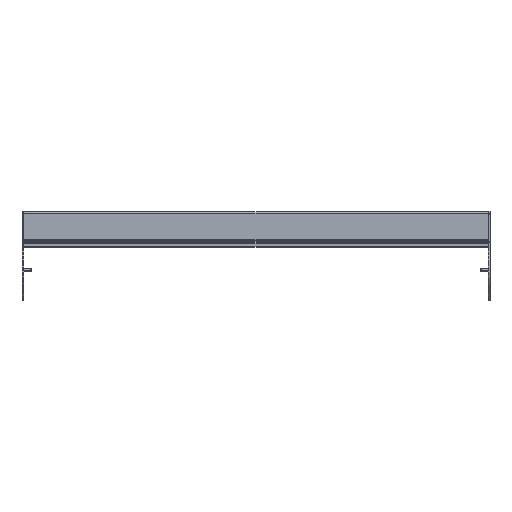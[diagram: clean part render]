
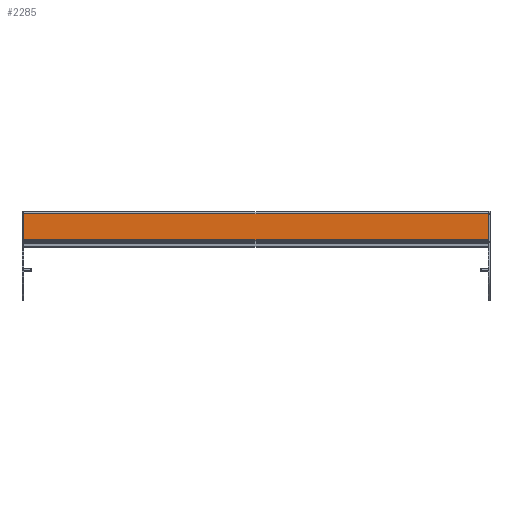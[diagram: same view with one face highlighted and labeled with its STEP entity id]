
A CAD part, top view. The second image highlights one B-rep face of the part: STEP entity #2285.
In plain terms, the highlighted planar face has unit normal (0, 0, 1) as drawn and (1, 0, 0) by its records, which use the part's own axes.
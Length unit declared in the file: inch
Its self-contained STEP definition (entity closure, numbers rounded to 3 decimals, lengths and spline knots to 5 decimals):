
#197=DIRECTION('',(0.,1.,0.));
#198=VECTOR('',#197,1.81445);
#199=CARTESIAN_POINT('',(0.683,-0.84545,-16.118));
#200=LINE('',#199,#198);
#303=DIRECTION('',(0.,1.,0.));
#304=VECTOR('',#303,1.81445);
#305=CARTESIAN_POINT('',(0.683,-0.84545,16.118));
#306=LINE('',#305,#304);
#646=DIRECTION('',(0.,0.,1.));
#647=VECTOR('',#646,32.236);
#648=CARTESIAN_POINT('',(0.683,0.969,-16.118));
#649=LINE('',#648,#647);
#659=DIRECTION('',(0.,0.,-1.));
#660=VECTOR('',#659,32.236);
#661=CARTESIAN_POINT('',(0.683,-0.84545,16.118));
#662=LINE('',#661,#660);
#1270=CARTESIAN_POINT('',(0.683,-0.84545,-16.118));
#1271=CARTESIAN_POINT('',(0.683,0.969,-16.118));
#1272=VERTEX_POINT('',#1270);
#1273=VERTEX_POINT('',#1271);
#1274=CARTESIAN_POINT('',(0.683,-0.84545,16.118));
#1275=CARTESIAN_POINT('',(0.683,0.969,16.118));
#1276=VERTEX_POINT('',#1274);
#1277=VERTEX_POINT('',#1275);
#2273=CARTESIAN_POINT('',(0.683,-0.86334,-16.118));
#2274=DIRECTION('',(1.,0.,0.));
#2275=DIRECTION('',(0.,1.,0.));
#2276=AXIS2_PLACEMENT_3D('',#2273,#2274,#2275);
#2277=PLANE('',#2276);
#2278=ORIENTED_EDGE('',*,*,#1631,.F.);
#2280=ORIENTED_EDGE('',*,*,#2279,.F.);
#2281=ORIENTED_EDGE('',*,*,#1734,.T.);
#2282=ORIENTED_EDGE('',*,*,#2266,.F.);
#2283=EDGE_LOOP('',(#2278,#2280,#2281,#2282));
#2284=FACE_OUTER_BOUND('',#2283,.F.);
#1631=EDGE_CURVE('',#1272,#1273,#200,.T.);
#1734=EDGE_CURVE('',#1276,#1277,#306,.T.);
#2266=EDGE_CURVE('',#1273,#1277,#649,.T.);
#2279=EDGE_CURVE('',#1276,#1272,#662,.T.);
#2285=ADVANCED_FACE('',(#2284),#2277,.T.);
